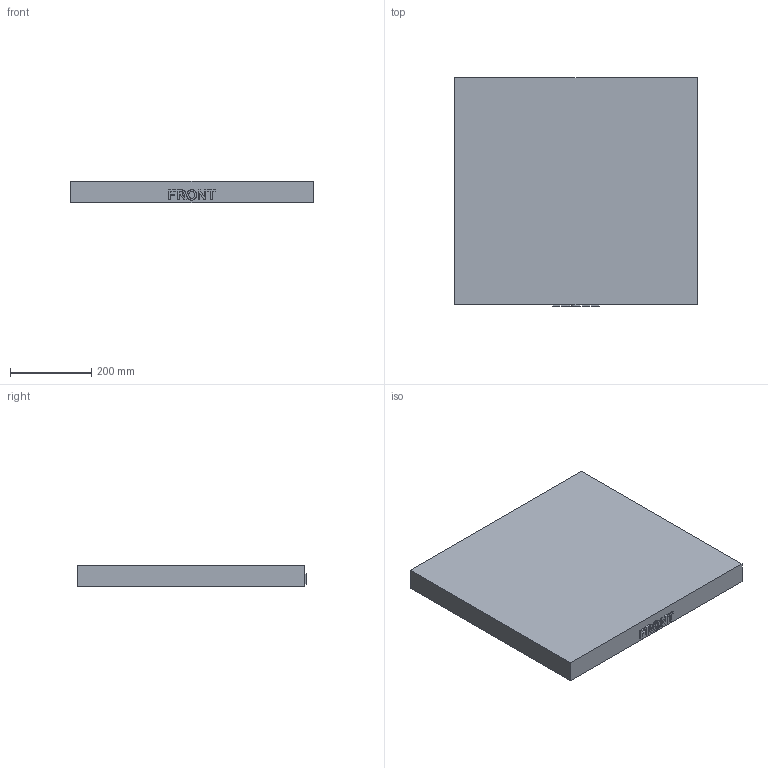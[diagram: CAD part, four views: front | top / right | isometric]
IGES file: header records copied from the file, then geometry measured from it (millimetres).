
Start section: Comment
Global section: file name: 2875-lid_internal_tub.igs; native system:  By UGS Corp.; preprocessor: XPlus GENERIC/IGES 3.0; author: Author; organization: Title; date: 20100514.093559; units: millimetre
Bounding box: 596.9 x 561.98 x 53.98 mm (x, y, z)
Surface area: 889622.5 mm2 (no closed solid volume)
Topology: 0 solids, 0 shells, 548 faces, 2774 edges, 2754 vertices
Faces by surface type: bspline 548
